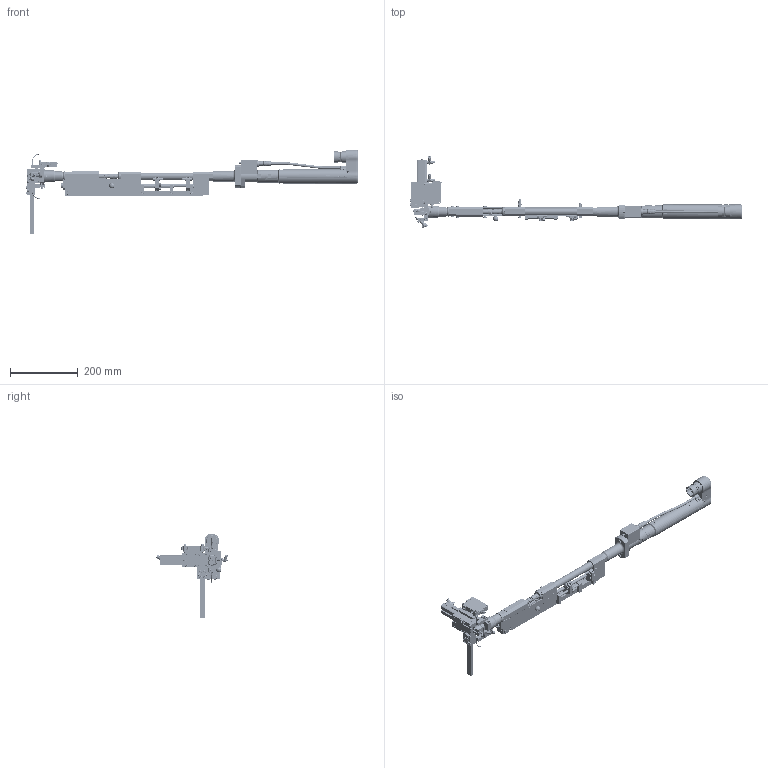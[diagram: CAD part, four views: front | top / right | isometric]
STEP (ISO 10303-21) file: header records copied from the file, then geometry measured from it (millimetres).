
FILE_DESCRIPTION(/* description */ (''),/* implementation_level */ '2;1');
FILE_NAME(/* name */ 'G:\Modelle für Marketing\3Ds Parasolid\3D-Parasolid_automatic_nutrunner_SEM2001_series.x_b.ipt.stp',/* time_stamp */ '2016-07-28T11:54:06+02:00',/* author */ ('Wolf'),/* organization */ (''),/* preprocessor_version */ 'ST-DEVELOPER v15.2',/* originating_system */ 'Autodesk Inventor 2014',/* authorisation */ '');
FILE_SCHEMA (('AUTOMOTIVE_DESIGN { 1 0 10303 214 3 1 1 }'));
Products named in the file (1): 3D-Parasolid_automatic_nutrunner_SEM2001_series.x_b
Bounding box: 978.7 x 212.41 x 249.5 mm (x, y, z)
Volume: 1262603 mm3; surface area: 552916 mm2
Topology: 111 solids, 254 shells, 5966 faces, 15079 edges, 9745 vertices
Faces by surface type: plane 3257, cylinder 1578, cone 555, torus 307, bspline 135, sphere 134
Full cylindrical faces by diameter (mm): 0.5 x1, 1 x4, 1.2 x1, 1.3 x2, 1.5 x9, 1.8 x2, 2 x9, 2.05 x7, 2.1 x2, 2.2 x2, 2.3 x2, 2.38 x2, 2.4 x3, 2.42 x2, 2.459 x2, 2.5 x17, 2.6 x6, 2.7 x1, 3 x32, 3.02 x3, 3.1 x5, 3.141 x5, 3.2 x1, 3.242 x38, 3.25 x2, 3.3 x4, 3.4 x2, 3.5 x2, 3.6 x3, 3.8 x5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
Entity records: 198395 total; most frequent: CARTESIAN_POINT 61419, DIRECTION 26869, ORIENTED_EDGE 25052, EDGE_CURVE 12554, AXIS2_PLACEMENT_3D 10274, VERTEX_POINT 8985, EDGE_LOOP 8401, LINE 6321
